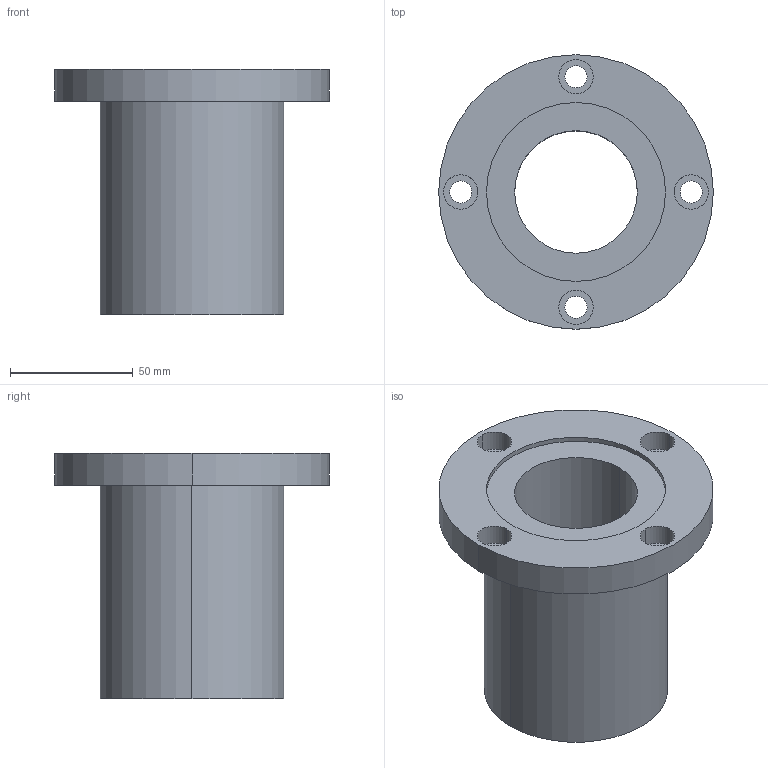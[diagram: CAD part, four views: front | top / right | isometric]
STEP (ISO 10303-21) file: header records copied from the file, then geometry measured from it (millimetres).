
FILE_DESCRIPTION((''),'2;1');
FILE_NAME('C:\Documents and Settings\ｿﾀﾀ蠑ｷ1\ｹﾙﾅﾁ ﾈｭｸ饅\ｺﾎﾇｰﾆﾄﾀﾏ\ﾁｦﾇｰ\LMEF__UU\LMEF50UU.stp','2005-06-15T10:51:53',('ｿﾀﾀ蠑ｷ1'),(''),'Autodesk Inventor 9','Autodesk Inventor 9','');
FILE_SCHEMA(('AUTOMOTIVE_DESIGN { 1 0 10303 214 1 1 1 1 }'));
Length unit declared in the file: millimetre
Products named in the file (1): LMEF__(L)
Bounding box: 112 x 112 x 100 mm (x, y, z)
Volume: 300779.1 mm3; surface area: 58348.5 mm2
Topology: 1 solids, 1 shells, 35 faces, 78 edges, 52 vertices
Faces by surface type: bspline 20, cylinder 10, plane 5
Entity records: 1255 total; most frequent: CARTESIAN_POINT 450, DIRECTION 162, ORIENTED_EDGE 156, EDGE_CURVE 78, AXIS2_PLACEMENT_3D 68, VERTEX_POINT 52, CIRCLE 52, EDGE_LOOP 52
